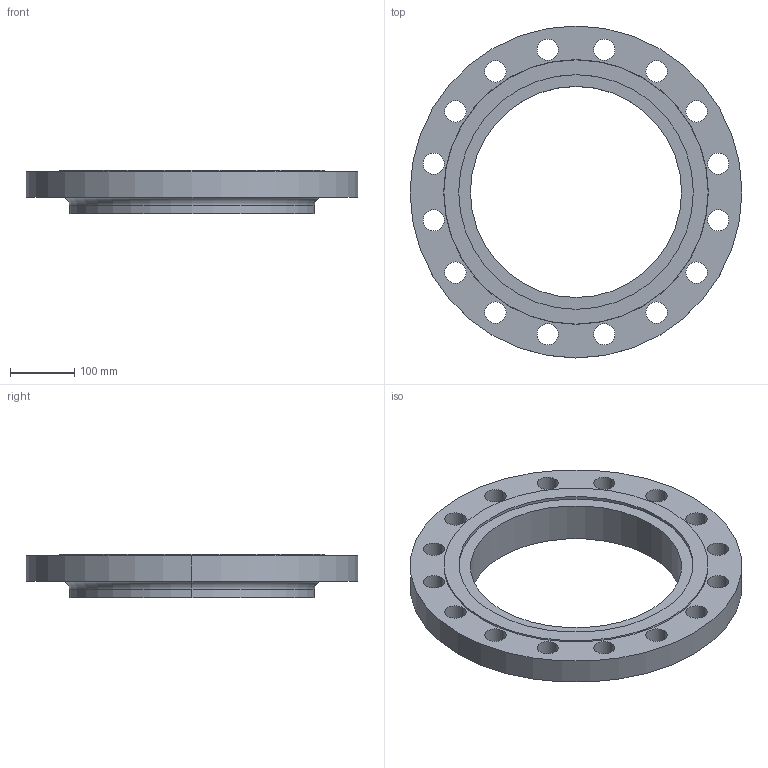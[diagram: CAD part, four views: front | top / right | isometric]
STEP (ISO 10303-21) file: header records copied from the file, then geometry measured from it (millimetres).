
FILE_DESCRIPTION (( 'STEP AP214' ), '1' );
FILE_NAME ('PN40 DN300 Type 12 - Type F Face.STEP', '2019-01-05T20:20:52', ( '' ), ( '' ), 'SwSTEP 2.0', 'SolidWorks 2019', '' );
FILE_SCHEMA (( 'AUTOMOTIVE_DESIGN' ));
Length unit declared in the file: millimetre
Products named in the file (1): PN40 DN300 Type 12 - Type F Face
Bounding box: 515 x 515 x 67 mm (x, y, z)
Volume: 5188894.6 mm3; surface area: 447208.9 mm2
Topology: 1 solids, 1 shells, 49 faces, 130 edges, 86 vertices
Faces by surface type: cylinder 40, plane 5, torus 2, cone 2
Entity records: 1678 total; most frequent: DIRECTION 318, CARTESIAN_POINT 266, ORIENTED_EDGE 260, AXIS2_PLACEMENT_3D 138, EDGE_CURVE 130, CIRCLE 88, EDGE_LOOP 86, VERTEX_POINT 86
